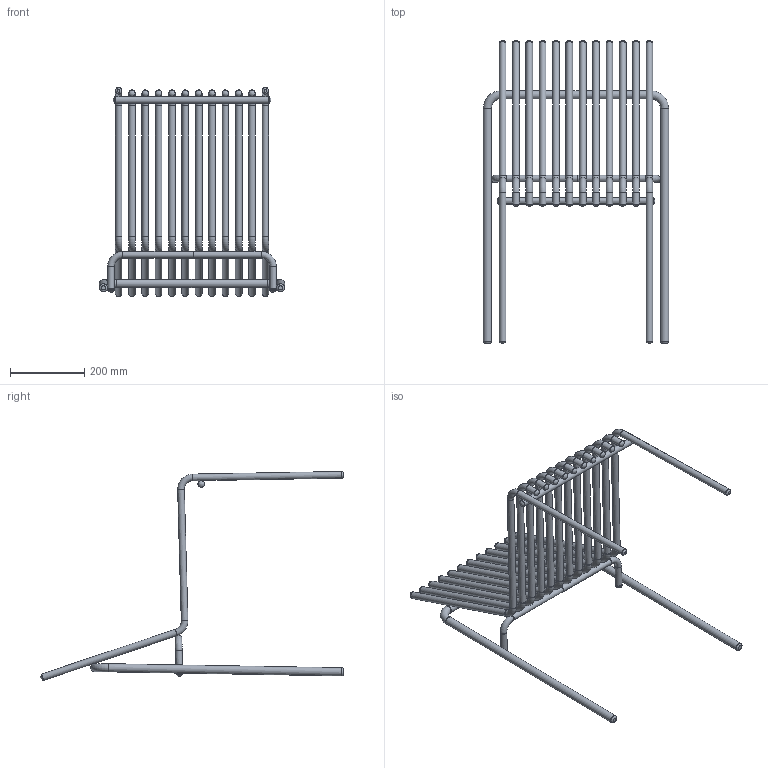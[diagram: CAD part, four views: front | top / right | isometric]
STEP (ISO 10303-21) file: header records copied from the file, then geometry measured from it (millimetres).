
FILE_DESCRIPTION(('STEP AP203'),'1');
FILE_NAME('20211108_Sedia AMALFI_No Braccioli.stp','2022-03-16T12:44:14',(' '),(' '),'Spatial InterOp 3D',' ',' ');
FILE_SCHEMA(('CONFIG_CONTROL_DESIGN'));
Length unit declared in the file: millimetre
Products named in the file (46): 20211108_Sedia AMALFI_No Braccioli; 20211108_Sedia AMALFI_No Braccioli 44; 20211108_Sedia AMALFI_No Braccioli 43; 20211108_Sedia AMALFI_No Braccioli 42; 20211108_Sedia AMALFI_No Braccioli 41; 20211108_Sedia AMALFI_No Braccioli 40; 20211108_Sedia AMALFI_No Braccioli 39; 20211108_Sedia AMALFI_No Braccioli 38; 20211108_Sedia AMALFI_No Braccioli 37; 20211108_Sedia AMALFI_No Braccioli 36; 20211108_Sedia AMALFI_No Braccioli 35; 20211108_Sedia AMALFI_No Braccioli 34; 20211108_Sedia AMALFI_No Braccioli 33; 20211108_Sedia AMALFI_No Braccioli 32; 20211108_Sedia AMALFI_No Braccioli 31; 20211108_Sedia AMALFI_No Braccioli 30; 20211108_Sedia AMALFI_No Braccioli 29; 20211108_Sedia AMALFI_No Braccioli 28; 20211108_Sedia AMALFI_No Braccioli 27; 20211108_Sedia AMALFI_No Braccioli 26; 20211108_Sedia AMALFI_No Braccioli 25; 20211108_Sedia AMALFI_No Braccioli 24; 20211108_Sedia AMALFI_No Braccioli 23; 20211108_Sedia AMALFI_No Braccioli 22; 20211108_Sedia AMALFI_No Braccioli 21; 20211108_Sedia AMALFI_No Braccioli 20; 20211108_Sedia AMALFI_No Braccioli 19; 20211108_Sedia AMALFI_No Braccioli 18; 20211108_Sedia AMALFI_No Braccioli 17; 20211108_Sedia AMALFI_No Braccioli 16; 20211108_Sedia AMALFI_No Braccioli 15; 20211108_Sedia AMALFI_No Braccioli 14; 20211108_Sedia AMALFI_No Braccioli 13; 20211108_Sedia AMALFI_No Braccioli 12; 20211108_Sedia AMALFI_No Braccioli 11; 20211108_Sedia AMALFI_No Braccioli 10; 20211108_Sedia AMALFI_No Braccioli 9; 20211108_Sedia AMALFI_No Braccioli 8; 20211108_Sedia AMALFI_No Braccioli 7; 20211108_Sedia AMALFI_No Braccioli 6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
Assembly tree (45 placements, depth 2):
  20211108_Sedia AMALFI_No Braccioli
    20211108_Sedia AMALFI_No Braccioli 44
    20211108_Sedia AMALFI_No Braccioli 43
    20211108_Sedia AMALFI_No Braccioli 42
    20211108_Sedia AMALFI_No Braccioli 41
    20211108_Sedia AMALFI_No Braccioli 40
    20211108_Sedia AMALFI_No Braccioli 39
    20211108_Sedia AMALFI_No Braccioli 38
    20211108_Sedia AMALFI_No Braccioli 37
    20211108_Sedia AMALFI_No Braccioli 36
    20211108_Sedia AMALFI_No Braccioli 35
    20211108_Sedia AMALFI_No Braccioli 34
    20211108_Sedia AMALFI_No Braccioli 33
    20211108_Sedia AMALFI_No Braccioli 32
    20211108_Sedia AMALFI_No Braccioli 31
    20211108_Sedia AMALFI_No Braccioli 30
    20211108_Sedia AMALFI_No Braccioli 29
    20211108_Sedia AMALFI_No Braccioli 28
    20211108_Sedia AMALFI_No Braccioli 27
    20211108_Sedia AMALFI_No Braccioli 26
    20211108_Sedia AMALFI_No Braccioli 25
    20211108_Sedia AMALFI_No Braccioli 24
    20211108_Sedia AMALFI_No Braccioli 23
    20211108_Sedia AMALFI_No Braccioli 22
    20211108_Sedia AMALFI_No Braccioli 21
    20211108_Sedia AMALFI_No Braccioli 20
    20211108_Sedia AMALFI_No Braccioli 19
    20211108_Sedia AMALFI_No Braccioli 18
    20211108_Sedia AMALFI_No Braccioli 17
    20211108_Sedia AMALFI_No Braccioli 16
    20211108_Sedia AMALFI_No Braccioli 15
    20211108_Sedia AMALFI_No Braccioli 14
    20211108_Sedia AMALFI_No Braccioli 13
    20211108_Sedia AMALFI_No Braccioli 12
    20211108_Sedia AMALFI_No Braccioli 11
    20211108_Sedia AMALFI_No Braccioli 10
    20211108_Sedia AMALFI_No Braccioli 9
    20211108_Sedia AMALFI_No Braccioli 8
    20211108_Sedia AMALFI_No Braccioli 7
    20211108_Sedia AMALFI_No Braccioli 6
    20211108_Sedia AMALFI_No Braccioli 5
    20211108_Sedia AMALFI_No Braccioli 4
    20211108_Sedia AMALFI_No Braccioli 3
    20211108_Sedia AMALFI_No Braccioli 2
    20211108_Sedia AMALFI_No Braccioli 1
    20211108_Sedia AMALFI_No Braccioli 0
Bounding box: 500 x 818.26 x 564.15 mm (x, y, z)
Volume: 1071063.9 mm3; surface area: 1509640.8 mm2
Topology: 45 solids, 45 shells, 298 faces, 566 edges, 356 vertices
Faces by surface type: cylinder 122, torus 84, plane 64, sphere 26, bspline 2
Full cylindrical faces by diameter (mm): 15.2 x43, 18 x69, 19.2 x5, 22 x5
Entity records: 8898 total; most frequent: DIRECTION 1220, CARTESIAN_POINT 934, AXIS2_PLACEMENT_3D 610, EDGE_LOOP 536, ORIENTED_EDGE 536, FACE_OUTER_BOUND 506, ADVANCED_FACE 298, EDGE_CURVE 268
